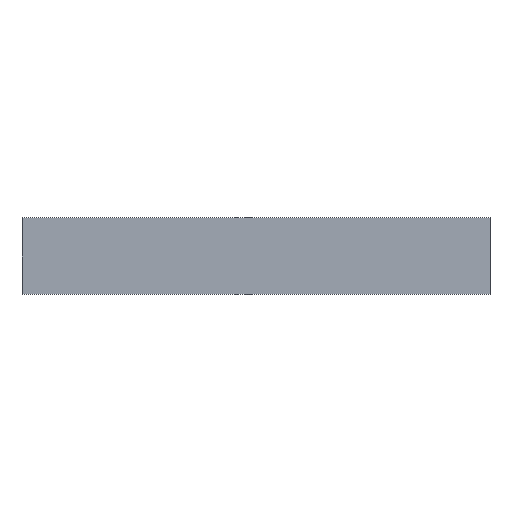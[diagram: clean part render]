
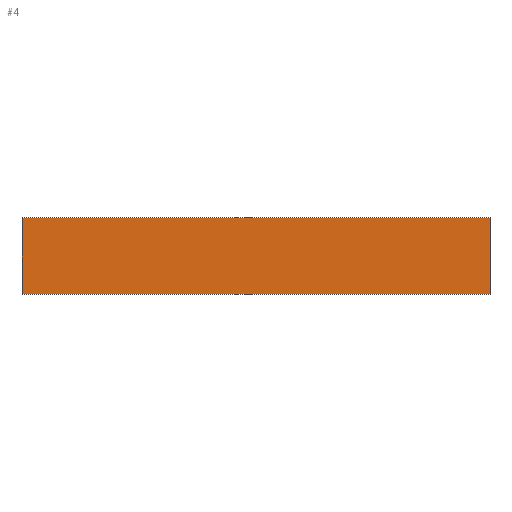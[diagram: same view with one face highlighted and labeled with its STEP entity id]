
A CAD part, top view. The second image highlights one B-rep face of the part: STEP entity #4.
In plain terms, the highlighted planar face has unit normal (0, 0, 1).
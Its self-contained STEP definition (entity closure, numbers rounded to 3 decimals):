
#4 = ADVANCED_FACE ( 'NONE', ( #48 ), #173, .F. ) ;
#16 = ORIENTED_EDGE ( 'NONE', *, *, #97, .T. ) ;
#17 = ORIENTED_EDGE ( 'NONE', *, *, #99, .T. ) ;
#21 = ORIENTED_EDGE ( 'NONE', *, *, #100, .T. ) ;
#23 = ORIENTED_EDGE ( 'NONE', *, *, #103, .T. ) ;
#39 = LINE ( 'NONE', #159, #56 ) ;
#43 = EDGE_LOOP ( 'NONE', ( #16, #17, #23, #21 ) ) ;
#48 = FACE_OUTER_BOUND ( 'NONE', #43, .T. ) ;
#56 = VECTOR ( 'NONE', #163, 1000. ) ;
#65 = VECTOR ( 'NONE', #171, 1000. ) ;
#66 = LINE ( 'NONE', #170, #65 ) ;
#71 = LINE ( 'NONE', #198, #72 ) ;
#72 = VECTOR ( 'NONE', #156, 1000. ) ;
#77 = LINE ( 'NONE', #172, #79 ) ;
#79 = VECTOR ( 'NONE', #180, 1000. ) ;
#97 = EDGE_CURVE ( 'NONE', #139, #116, #39, .T. ) ;
#99 = EDGE_CURVE ( 'NONE', #116, #127, #77, .T. ) ;
#100 = EDGE_CURVE ( 'NONE', #130, #139, #71, .T. ) ;
#103 = EDGE_CURVE ( 'NONE', #127, #130, #66, .T. ) ;
#109 = AXIS2_PLACEMENT_3D ( 'NONE', #167, #124, #129 ) ;
#116 = VERTEX_POINT ( 'NONE', #161 ) ;
#121 = CARTESIAN_POINT ( 'NONE',  ( 182.5, 30., 2. ) ) ;
#124 = DIRECTION ( 'NONE',  ( 0., 0., -1. ) ) ;
#127 = VERTEX_POINT ( 'NONE', #189 ) ;
#129 = DIRECTION ( 'NONE',  ( -1., 0., 0. ) ) ;
#130 = VERTEX_POINT ( 'NONE', #121 ) ;
#139 = VERTEX_POINT ( 'NONE', #169 ) ;
#156 = DIRECTION ( 'NONE',  ( -1., 0., 0. ) ) ;
#159 = CARTESIAN_POINT ( 'NONE',  ( -182.5, -30., 2. ) ) ;
#161 = CARTESIAN_POINT ( 'NONE',  ( -182.5, -30., 2. ) ) ;
#163 = DIRECTION ( 'NONE',  ( 0., -1., 0. ) ) ;
#167 = CARTESIAN_POINT ( 'NONE',  ( -182.5, 30., 2. ) ) ;
#169 = CARTESIAN_POINT ( 'NONE',  ( -182.5, 30., 2. ) ) ;
#170 = CARTESIAN_POINT ( 'NONE',  ( 182.5, -30., 2. ) ) ;
#171 = DIRECTION ( 'NONE',  ( 0., 1., 0. ) ) ;
#172 = CARTESIAN_POINT ( 'NONE',  ( -182.5, -30., 2. ) ) ;
#173 = PLANE ( 'NONE',  #109 ) ;
#180 = DIRECTION ( 'NONE',  ( 1., 0., 0. ) ) ;
#189 = CARTESIAN_POINT ( 'NONE',  ( 182.5, -30., 2. ) ) ;
#198 = CARTESIAN_POINT ( 'NONE',  ( -182.5, 30., 2. ) ) ;
